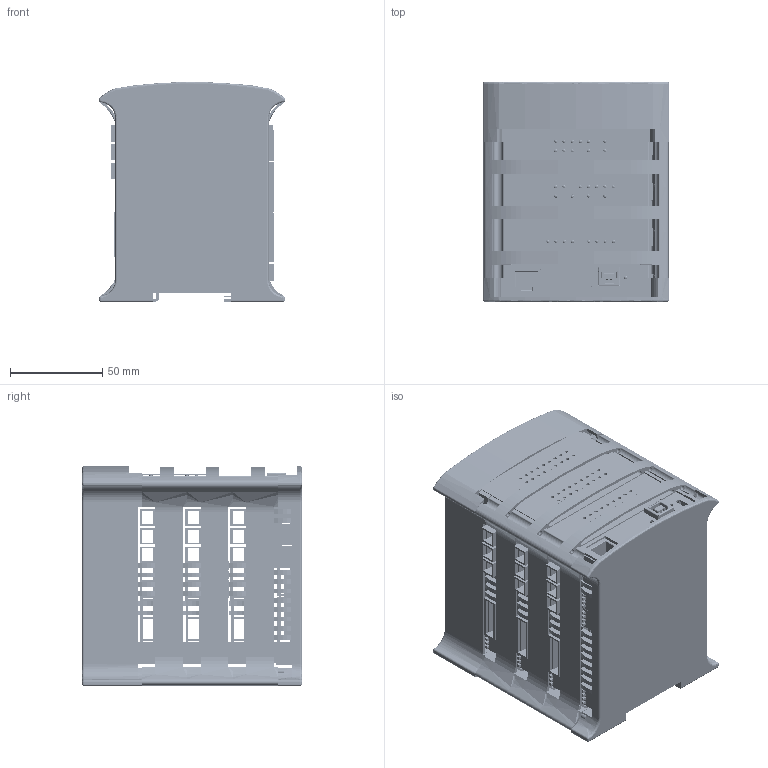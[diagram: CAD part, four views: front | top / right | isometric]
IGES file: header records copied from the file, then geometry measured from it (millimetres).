
Start section: SolidWorks IGES file using analytic representation for surfaces
Global section: file name: D:\Dropbox (Boot&Work_Corp_SL)\Equipo Tecnico\PROYECTOS\INDUSTRIAL SHIELDS\I+D\3D\3D conjuntos\equipos\M_duino rele\57R+\Mduino_57R+.IGS; native system: SolidWorks 2016; preprocessor: SolidWorks 2016; author: albertis; date: 191106.150225; units: millimetre
Bounding box: 101 x 119.3 x 119.5 mm (x, y, z)
Surface area: 201559.1 mm2 (no closed solid volume)
Topology: 0 solids, 0 shells, 1567 faces, 28463 edges, 28391 vertices
Faces by surface type: bspline 1073, revolution 494
